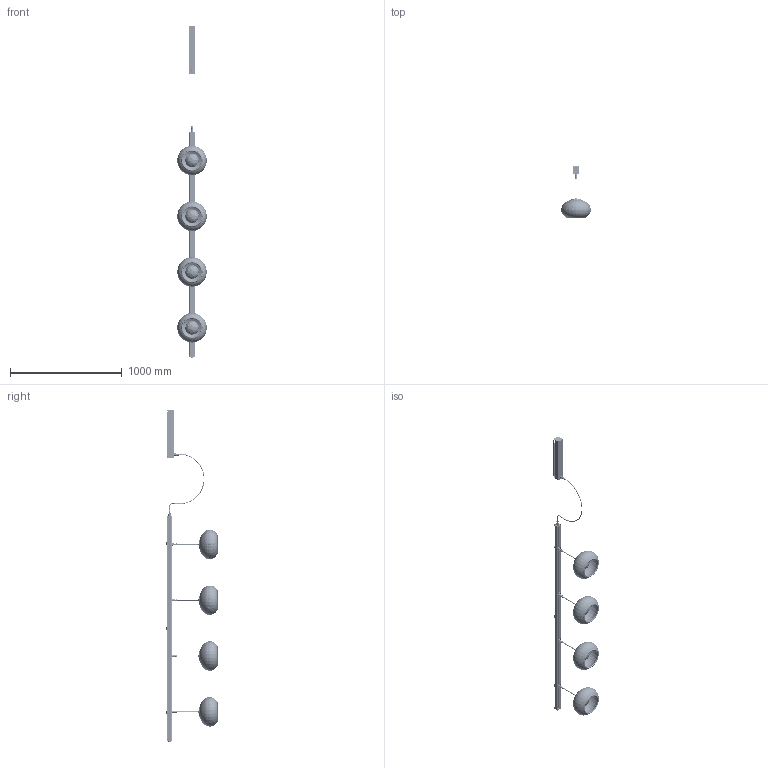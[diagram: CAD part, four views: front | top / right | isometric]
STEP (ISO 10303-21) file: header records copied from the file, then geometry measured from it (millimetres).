
FILE_DESCRIPTION (( 'STEP AP203' ), '1' );
FILE_NAME ('OUTRACK GAROTA PF-27-4L 13001104yyy.STEP', '2024-02-08T13:19:32', ( '' ), ( '' ), 'SwSTEP 2.0', 'SolidWorks 2019', '' );
FILE_SCHEMA (( 'CONFIG_CONTROL_DESIGN' ));
Length unit declared in the file: millimetre
Products named in the file (53): 000-AC130201; 000-133-040; 133-035; 000-D7991-314 a4; 000-130 OUTRACK TAPA ACOMETIDA 20_09_22_SIN PRENSA; 000-SUB133-010_TRIAC; TUERCA M16_150 CONECTOR LLT; 000-130-115; 000-130 OUTRACK TAPA ACOMETIDA 20_09_22; 000-33501229YYY GAROTA S-01 OUT SISTEMA 24VDC; 000-906-024; 914-248; 000-AC130002; 133-038-12; 000-335-23; 000-914-231HP; 000-130 OUTRACK ENSAMBLAJE CONECTOR INFERIOR 20_09_22; 000-335-090; OUTRACK GAROTA PF-27-4L 13001104yyy; 000-130_501; D6798J-3.2A2; 000-130_503; 133-050; 000-D7991-310; 000-335-09; 000-130_502; 000-130_521; 000-335-21; 000-914-052; D965-410A2; 000-914-258; 000-914-231; D7985-310A2; 000-AC130304_AC130304-CURVADO; 000-130_304; D913-310A2; 914-231HP; 000-906.032 - AC130304-CURVADO; 000-D912-330_A2_DIN 912 M3 x 30 --- 18N; 000-335-087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
Assembly tree (147 placements, depth 4):
  OUTRACK GAROTA PF-27-4L 13001104yyy
    000-AC130002
      000-130_521
      000-130 OUTRACK TAPA ACOMETIDA 20_09_22
        000-130_516
        000-914-231HP
        000-130_517
        000-D965-38_ISO 7046-1 - M3 x 5 - Z --- 5N  x4
      000-130 OUTRACK TAPA ACOMETIDA 20_09_22_SIN PRENSA
        000-130_516
        000-914-231HP
        000-130_517
        000-D965-38_ISO 7046-1 - M3 x 5 - Z --- 5N  x4
      000-130 OUTRACK ENSAMBLAJE CONECTOR INFERIOR 20_09_22
        000-130_504
        000-130_304
        000-914-231HP
        000-D7991-310  x4
      000-130 OUTRACK ENSAMBLAJE CONECTOR INFERIOR 20_09_22
        000-130_504
        000-130_304
        000-914-231HP
        000-D7991-310  x4
      000-130 OUTRACK ENSAMBLAJE CONECTOR INFERIOR 20_09_22
        000-130_504
        000-130_304
        000-914-231HP
        000-D7991-310  x4
      000-130 OUTRACK ENSAMBLAJE CONECTOR INFERIOR 20_09_22
        000-130_504
        000-130_304
        000-914-231HP
        000-D7991-310  x4
      000-130-115
      000-914-258
    000-AC130304_AC130304-CURVADO
      000-914-231
      000-906.032 - AC130304-CURVADO
    000-33501229YYY GAROTA S-01 OUT SISTEMA 24VDC
      000-906-024
      000-914-052
      000-335-090
      000-335-21
      000-335-087
      000-335-23
      000-335-09
      000-D7991-314 a4  x3
      000-914-231
    000-33501229YYY GAROTA S-01 OUT SISTEMA 24VDC
      000-906-024
      000-914-052
      000-335-090
      000-335-21
      000-335-087
      000-335-23
      000-335-09
      000-D7991-314 a4  x3
      000-914-231
    000-33501229YYY GAROTA S-01 OUT SISTEMA 24VDC
      000-906-024
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Bounding box: 262.99 x 457.11 x 2975.6 mm (x, y, z)
Volume: 2567886.5 mm3; surface area: 4172247.7 mm2
Topology: 154 solids, 177 shells, 10433 faces, 26651 edges, 16928 vertices
Faces by surface type: plane 4015, cylinder 3147, cone 1550, bspline 1095, torus 610, sphere 16
Entity records: 137933 total; most frequent: CARTESIAN_POINT 43705, ORIENTED_EDGE 18514, DIRECTION 17234, EDGE_CURVE 9263, AXIS2_PLACEMENT_3D 6138, VERTEX_POINT 6012, LINE 4958, VECTOR 4958
